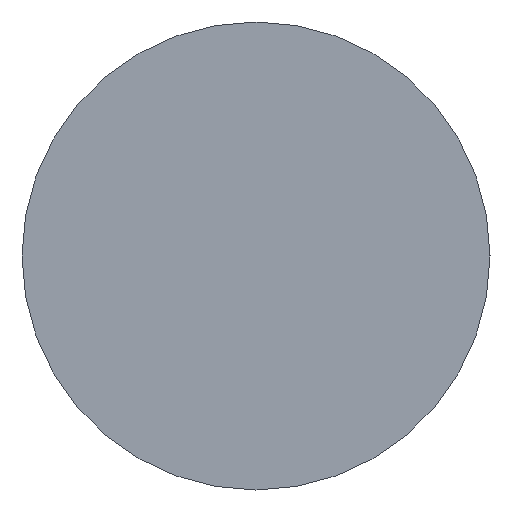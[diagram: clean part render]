
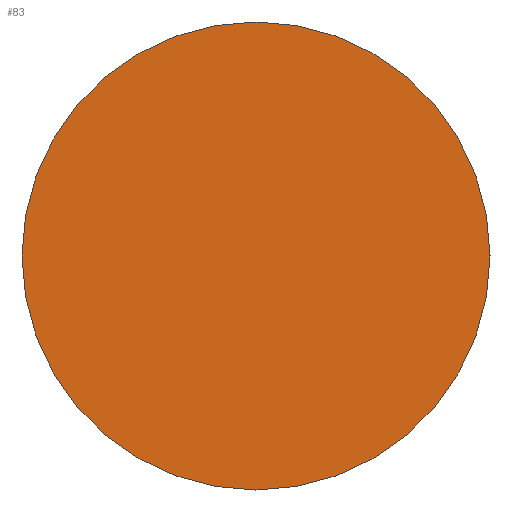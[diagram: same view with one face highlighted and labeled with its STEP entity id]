
A CAD part, left-side view. The second image highlights one B-rep face of the part: STEP entity #83.
In plain terms, the highlighted planar face has unit normal (-1, 0, 0).
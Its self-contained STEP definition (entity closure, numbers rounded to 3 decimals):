
#17=PLANE('',#116);
#24=FACE_OUTER_BOUND('',#30,.T.);
#30=EDGE_LOOP('',(#72));
#44=CIRCLE('',#117,3.85);
#50=VERTEX_POINT('',#165);
#58=EDGE_CURVE('',#50,#50,#44,.T.);
#72=ORIENTED_EDGE('',*,*,#58,.F.);
#83=ADVANCED_FACE('',(#24),#17,.T.);
#116=AXIS2_PLACEMENT_3D('',#164,#139,#140);
#117=AXIS2_PLACEMENT_3D('',#166,#141,#142);
#139=DIRECTION('center_axis',(-1.,0.,0.));
#140=DIRECTION('ref_axis',(0.,0.,1.));
#141=DIRECTION('center_axis',(1.,0.,0.));
#142=DIRECTION('ref_axis',(0.,0.,-1.));
#164=CARTESIAN_POINT('Origin',(-5.,0.,9.65));
#165=CARTESIAN_POINT('',(-5.,0.,1.95));
#166=CARTESIAN_POINT('Origin',(-5.,0.,5.8));
